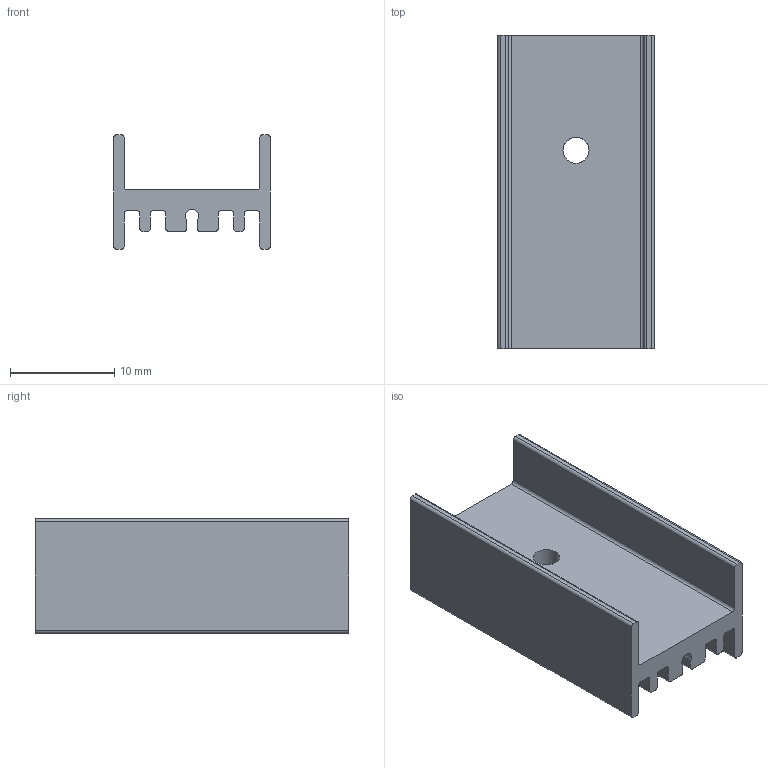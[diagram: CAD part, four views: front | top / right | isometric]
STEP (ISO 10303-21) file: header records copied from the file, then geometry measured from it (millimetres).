
FILE_DESCRIPTION (( 'STEP AP214' ), '1' );
FILE_NAME ('User Library-Heatsink 11x15x30mm.STEP', '2017-03-15T14:44:08', ( 'Windows User' ), ( '' ), 'SwSTEP 2.0', 'SolidWorks 2017', '' );
FILE_SCHEMA (( 'AUTOMOTIVE_DESIGN' ));
Length unit declared in the file: millimetre
Products named in the file (1): User Library-Heatsink 11x15x30mm
Bounding box: 15 x 30 x 11 mm (x, y, z)
Volume: 1774.9 mm3; surface area: 2610.1 mm2
Topology: 1 solids, 1 shells, 67 faces, 198 edges, 132 vertices
Faces by surface type: cylinder 36, plane 31
Entity records: 2340 total; most frequent: CARTESIAN_POINT 464, ORIENTED_EDGE 396, DIRECTION 388, EDGE_CURVE 198, VERTEX_POINT 132, AXIS2_PLACEMENT_3D 132, VECTOR 124, LINE 124
